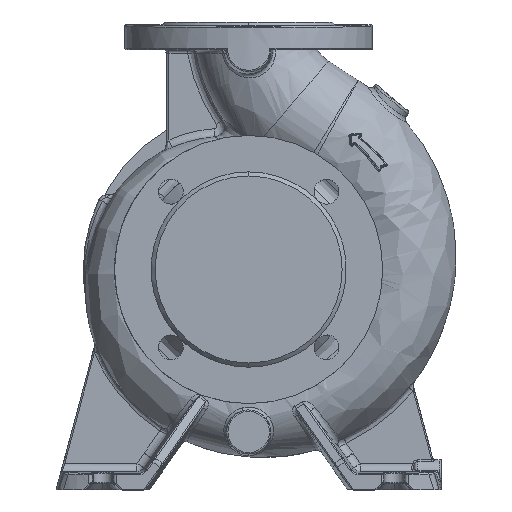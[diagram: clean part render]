
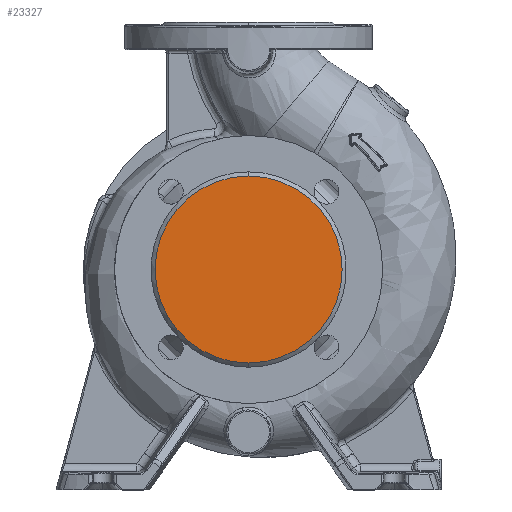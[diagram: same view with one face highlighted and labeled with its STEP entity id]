
A CAD part, top view. The second image highlights one B-rep face of the part: STEP entity #23327.
In plain terms, the highlighted planar face has unit normal (0, 0, 1).
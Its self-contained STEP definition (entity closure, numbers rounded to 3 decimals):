
#73 = ORIENTED_EDGE ( 'NONE', *, *, #25679, .F. ) ;
#1974 = DIRECTION ( 'NONE',  ( 0., 1., 0. ) ) ;
#2265 = CARTESIAN_POINT ( 'NONE',  ( 0., 0., 100. ) ) ;
#5174 = CIRCLE ( 'NONE', #24858, 68. ) ;
#7524 = CARTESIAN_POINT ( 'NONE',  ( 0., -68., 100. ) ) ;
#10111 = VERTEX_POINT ( 'NONE', #19442 ) ;
#11558 = PLANE ( 'NONE',  #35200 ) ;
#15389 = VERTEX_POINT ( 'NONE', #7524 ) ;
#19442 = CARTESIAN_POINT ( 'NONE',  ( 0., 68., 100. ) ) ;
#20568 = AXIS2_PLACEMENT_3D ( 'NONE', #21408, #30414, #52732 ) ;
#20681 = EDGE_LOOP ( 'NONE', ( #24703, #73 ) ) ;
#21408 = CARTESIAN_POINT ( 'NONE',  ( 0., 0., 100. ) ) ;
#23327 = ADVANCED_FACE ( 'NONE', ( #26917 ), #11558, .F. ) ;
#24703 = ORIENTED_EDGE ( 'NONE', *, *, #48714, .F. ) ;
#24858 = AXIS2_PLACEMENT_3D ( 'NONE', #55733, #28720, #1974 ) ;
#25679 = EDGE_CURVE ( 'NONE', #15389, #10111, #56440, .T. ) ;
#26917 = FACE_OUTER_BOUND ( 'NONE', #20681, .T. ) ;
#28720 = DIRECTION ( 'NONE',  ( 0., 0., -1. ) ) ;
#30414 = DIRECTION ( 'NONE',  ( 0., 0., -1. ) ) ;
#35200 = AXIS2_PLACEMENT_3D ( 'NONE', #2265, #42823, #38074 ) ;
#38074 = DIRECTION ( 'NONE',  ( 0., 1., 0. ) ) ;
#42823 = DIRECTION ( 'NONE',  ( 0., 0., -1. ) ) ;
#48714 = EDGE_CURVE ( 'NONE', #10111, #15389, #5174, .T. ) ;
#52732 = DIRECTION ( 'NONE',  ( 0., 1., 0. ) ) ;
#55733 = CARTESIAN_POINT ( 'NONE',  ( 0., 0., 100. ) ) ;
#56440 = CIRCLE ( 'NONE', #20568, 68. ) ;
